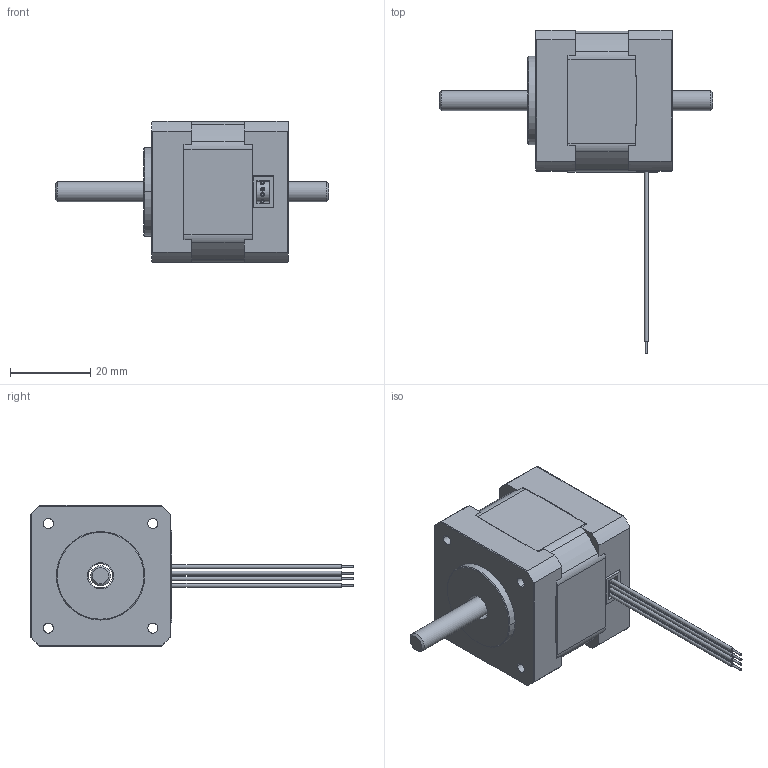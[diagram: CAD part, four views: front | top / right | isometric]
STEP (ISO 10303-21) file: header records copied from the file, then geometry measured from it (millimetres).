
FILE_DESCRIPTION( ('This file contains a STEP AP42 implementation' ,'as created by ZW3D STEP Interface translator.' ,'') ,'2;1' );
FILE_NAME( '35H34H-1004B-XXX.stp' ,'26 114.162725', (''), ('ZWCAD Software Co.'), 'Version 1.0', 'ZW3D to STEP translator', '' );
FILE_SCHEMA(('AUTOMOTIVE_DESIGN { 1 0 10303 214 1 1 1 1 }'));
Length unit declared in the file: millimetre
Products named in the file (1): 0
Bounding box: 68 x 80.51 x 35.09 mm (x, y, z)
Volume: 18607 mm3; surface area: 18115.5 mm2
Topology: 6 solids, 6 shells, 458 faces, 1382 edges, 882 vertices
Faces by surface type: plane 266, cylinder 159, bspline 29, cone 4
Full cylindrical faces by diameter (mm): 0.5 x8, 1 x2, 1.2 x8, 3.2 x4, 3.4 x4, 5 x1, 5.8 x4, 6 x1, 6.5 x1, 27.79 x1
Entity records: 16820 total; most frequent: CARTESIAN_POINT 3565, ORIENTED_EDGE 2764, DIRECTION 2679, EDGE_CURVE 1382, AXIS2_PLACEMENT_3D 912, VERTEX_POINT 882, VECTOR 855, LINE 855
